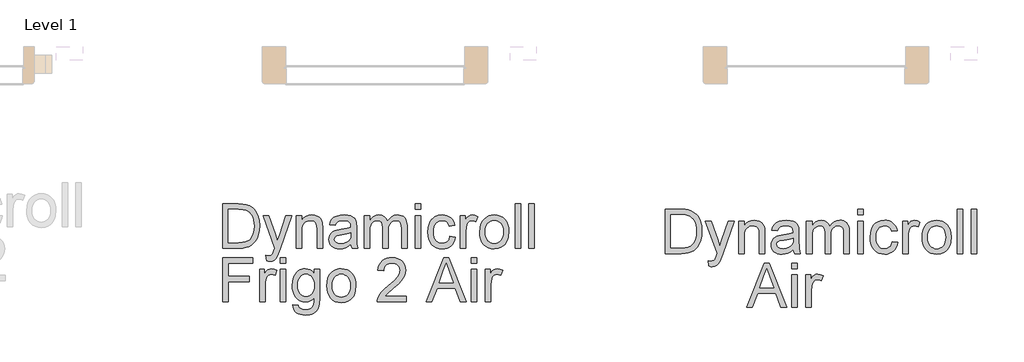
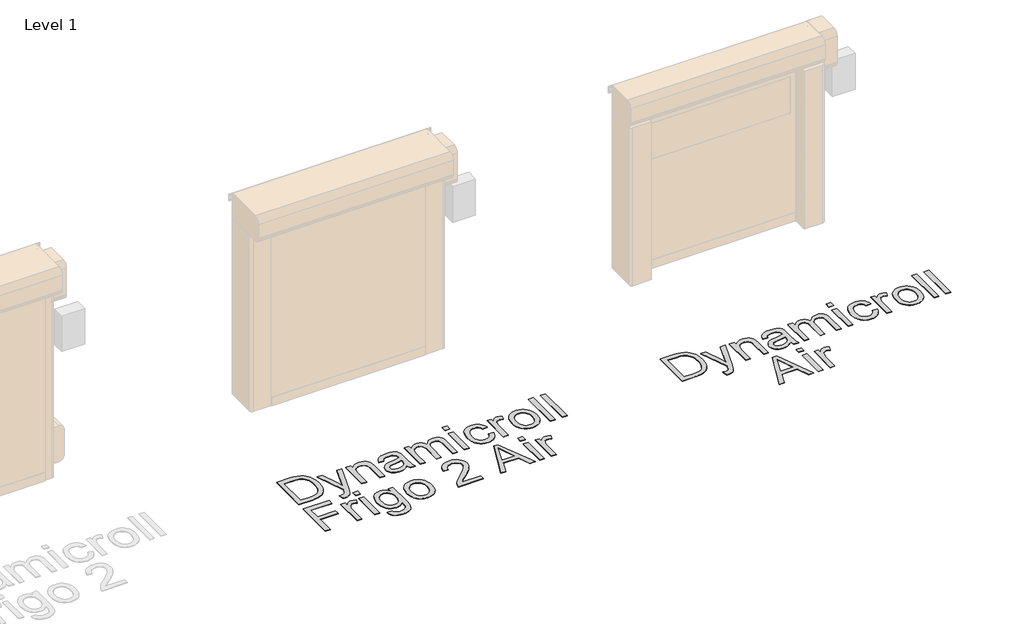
# One storey, part 5 of 17: 2 proxies.
"""IFC4 building model written with IfcOpenShell, lengths in millimetres."""

from ifc_helpers import new_model, si_unit, origin, origin_with_axes, place, context, project, spatial, polyline, outline, extrude, element, save

model = new_model("IFC4")

# Units and contexts
model_context = context("Model", 3, world=origin())
ifc_project = project(units=[si_unit("LENGTHUNIT", "METRE", prefix="MILLI")], contexts=[model_context])

# Site, building, storey
site = spatial("IfcSite", under=ifc_project)
building = spatial("IfcBuilding", under=site)
storey = spatial("IfcBuildingStorey", under=building, Name="Level 1", Elevation=0.0)

# Proxies
placement = place(None, origin())
element("IfcBuildingElementProxy", 1, Name="500mm", ObjectType="500mm", at=placement, inside=storey, context=model_context, shape_type="SweptSolid", body=[
    extrude(outline(polyline([(24771.8968294, 7368.7374399), (24771.8968294, 7871.0189907), (24945.1692491, 7871.0189907), (24996.94864, 7869.2102375), (25034.8098286, 7863.7839781), (25074.8476524, 7849.8351191), (25108.6314823, 7827.8541699), (25127.2478441, 7809.8892658), (25143.365674, 7789.5944424), (25156.9849721, 7766.9696997), (25168.1057382, 7742.0150377), (25182.9129885, 7686.0356608), (25187.8487386, 7622.5760166), (25184.5071438, 7568.6659759), (25174.4823595, 7521.2245269), (25159.2152567, 7480.8341495), (25140.1467066, 7448.0773235), (25118.1964142, 7422.218285), (25094.2840845, 7402.5212698), (25066.8308906, 7387.9132889), (25034.2580056, 7377.3213531), (24996.5041159, 7370.8834182), (24953.5079077, 7368.7374399), (24771.8968294, 7368.7374399)]), holes=[polyline([(24834.6820233, 7431.5226338), (24945.7823858, 7431.5226338), (24991.7369784, 7433.7912394), (25026.5937974, 7440.5970563), (25052.8973601, 7451.5415457), (25073.1921835, 7466.2261686), (25095.0045201, 7493.403451), (25111.3905973, 7528.5821668), (25121.6453079, 7571.9156002), (25125.0635448, 7623.5570352), (25123.3889153, 7660.0080096), (25118.3650268, 7691.9830863), (25109.9918793, 7719.4822655), (25098.2694728, 7742.505547), (25084.1481691, 7761.5740971), (25068.5783301, 7777.2090819), (25051.5599557, 7789.4105014), (25033.093046, 7798.1783556), (24996.9792968, 7805.7199365), (24944.0656032, 7808.2337968), (24834.6820233, 7808.2337968), (24834.6820233, 7431.5226338)])]), origin_with_axes(), (0.0, 0.0, 1.0), 5.0),
    extrude(outline(polyline([(25266.3302309, 7227.4707538), (25258.4820817, 7287.9260283), (25290.3651879, 7282.4077984), (25307.1344756, 7284.1399094), (25320.1636296, 7289.3362426), (25330.3110413, 7297.6289159), (25338.435102, 7308.6500474), (25355.6029284, 7354.8805514), (25360.5080217, 7370.0863406), (25227.0894848, 7737.6004537), (25293.3082439, 7737.6004537), (25364.0642143, 7532.8128098), (25388.712308, 7450.8977522), (25413.3604017, 7523.2478779), (25486.0784094, 7737.6004537), (25551.8066592, 7737.6004537), (25423.4158429, 7359.908272), (25390.0612086, 7277.9932144), (25372.9853527, 7251.8429359), (25353.6408911, 7233.7247477), (25331.1694326, 7223.1481403), (25304.7125858, 7219.6226045), (25286.5330838, 7221.5846418), (25266.3302309, 7227.4707538)])), origin_with_axes(), (0.0, 0.0, 1.0), 5.0),
    extrude(outline(polyline([(25603.8006478, 7368.7374399), (25603.8006478, 7737.6004537), (25666.5858417, 7737.6004537), (25666.5858417, 7686.0969744), (25688.3981783, 7712.0633119), (25714.594442, 7730.6106958), (25745.1746329, 7741.7391262), (25780.1387509, 7745.448603), (25811.0868237, 7742.4595618), (25839.4290657, 7733.4924381), (25863.0654839, 7719.6662065), (25879.8960852, 7702.0998412), (25891.3157555, 7680.8393276), (25898.7193806, 7655.9306508), (25902.0303186, 7595.2301216), (25902.0303186, 7368.7374399), (25839.2451247, 7368.7374399), (25839.2451247, 7586.7688357), (25837.4363716, 7619.2344218), (25832.0101122, 7642.319017), (25822.0006562, 7658.8583784), (25806.4423135, 7671.6882629), (25786.5000437, 7679.9196226), (25763.3388064, 7682.6634091), (25744.2740884, 7681.1229033), (25726.5659353, 7676.5013857), (25710.214347, 7668.7988564), (25695.2193236, 7658.0153155), (25682.6921753, 7642.9244894), (25673.7442122, 7622.3001051), (25668.3754343, 7596.1421624), (25666.5858417, 7564.4506613), (25666.5858417, 7368.7374399), (25603.8006478, 7368.7374399)])), origin_with_axes(), (0.0, 0.0, 1.0), 5.0),
    extrude(outline(polyline([(26223.804437, 7415.8263353), (26193.806726, 7390.1052525), (26162.9199668, 7373.2746512), (26130.4390523, 7363.9856308), (26095.6588754, 7360.8892907), (26067.7036759, 7362.7516933), (26043.1897058, 7368.3389011), (26022.1169653, 7377.6509141), (26004.4854542, 7390.6877323), (25990.56342, 7406.6216212), (25980.6191098, 7424.6248463), (25974.6525237, 7444.6974077), (25972.6636617, 7466.8393053), (25975.6680313, 7492.8669564), (25984.6811402, 7516.5033746), (25998.5840139, 7536.7368844), (26016.2576781, 7552.5558102), (26037.0276824, 7564.511975), (26060.2195765, 7573.1572019), (26114.5434845, 7582.5995064), (26178.7388926, 7592.5323203), (26223.436555, 7604.1819168), (26223.804437, 7618.1614326), (26219.4818236, 7646.1817779), (26206.5139833, 7664.514564), (26193.438844, 7672.4546838), (26177.5126193, 7678.1261979), (26137.1069135, 7682.6634091), (26099.7055773, 7679.6437111), (26073.5859557, 7670.584617), (26055.7743357, 7653.8306578), (26043.2970047, 7627.7263645), (25980.5118109, 7635.5745137), (25991.410315, 7669.9101666), (26007.6737649, 7696.8881796), (26030.8196737, 7717.5202282), (26062.3655548, 7732.8179878), (26100.9471791, 7742.2909492), (26145.2003174, 7745.448603), (26187.6447026, 7742.6588312), (26221.2905767, 7734.2895158), (26246.659106, 7721.7048859), (26264.2714565, 7706.2691705), (26275.9517099, 7687.185292), (26283.5239476, 7663.6561727), (26286.5896309, 7608.7191281), (26286.5896309, 7530.6055178), (26289.7779415, 7421.5285062), (26294.4990938, 7394.5658217), (26302.2859293, 7368.7374399), (26239.5007355, 7368.7374399), (26229.4452943, 7390.565105), (26223.804437, 7415.8263353)]), holes=[polyline([(26223.804437, 7541.396723), (26181.6206349, 7530.942743), (26122.514261, 7522.1442319), (26068.4969214, 7511.9661634), (26054.4407635, 7505.0070623), (26044.0327687, 7495.4114736), (26037.5948338, 7483.9151612), (26035.4488555, 7471.2538892), (26040.1240225, 7452.583878), (26054.1495236, 7437.2861183), (26077.2187904, 7427.077393), (26109.0252545, 7423.6744845), (26142.7477708, 7427.4299466), (26172.5462124, 7438.6963327), (26196.7037967, 7455.2970077), (26213.5037412, 7475.0553365), (26220.9533516, 7495.4114736), (26223.436555, 7523.6157599), (26223.804437, 7541.396723)])]), origin_with_axes(), (0.0, 0.0, 1.0), 5.0),
    extrude(outline(polyline([(26372.9192724, 7368.7374399), (26372.9192724, 7737.6004537), (26435.7044663, 7737.6004537), (26435.7044663, 7676.8999245), (26454.5890753, 7704.7823141), (26478.869287, 7726.6253076), (26507.7173668, 7740.7427791), (26540.3055802, 7745.448603), (26575.2237129, 7740.6508086), (26603.2134014, 7726.2574256), (26624.1213615, 7703.2188156), (26637.7943089, 7672.4853406), (26660.6796347, 7704.4067679), (26686.783928, 7727.2077874), (26716.1071887, 7740.8883991), (26748.6494168, 7745.448603), (26773.7841877, 7743.5517114), (26795.8456111, 7737.8610368), (26814.833687, 7728.3765791), (26830.7484154, 7715.0983384), (26843.3292132, 7697.8730304), (26852.3154974, 7676.547371), (26857.7072679, 7651.1213601), (26859.5045247, 7621.5949979), (26859.5045247, 7368.7374399), (26796.7193309, 7368.7374399), (26796.7193309, 7594.6169849), (26795.2631313, 7625.9329398), (26790.8945326, 7647.0401693), (26782.7091582, 7661.494866), (26769.8026315, 7672.8532226), (26753.2019565, 7680.2108625), (26733.934137, 7682.6634091), (26716.1416776, 7681.0922464), (26699.9203809, 7676.3787584), (26685.2702468, 7668.5229449), (26672.1912755, 7657.5248061), (26661.4345592, 7643.0624452), (26653.7511905, 7624.8139654), (26649.1411692, 7602.7793667), (26647.6044955, 7576.9586492), (26647.6044955, 7368.7374399), (26584.8193016, 7368.7374399), (26584.8193016, 7601.6067429), (26581.1864669, 7637.1073554), (26570.2879628, 7662.4298994), (26561.8611659, 7671.2820599), (26551.1121138, 7677.6050317), (26522.6472445, 7682.6634091), (26498.4590033, 7679.2911575), (26476.1714857, 7669.1744026), (26457.777386, 7652.5583992), (26445.2693981, 7629.6884018), (26438.0956992, 7597.9585797), (26435.7044663, 7554.7631021), (26435.7044663, 7368.7374399), (26372.9192724, 7368.7374399)])), origin_with_axes(), (0.0, 0.0, 1.0), 5.0),
    extrude(outline(polyline([(26953.6823155, 7808.2337968), (26953.6823155, 7871.0189907), (27016.4675093, 7871.0189907), (27016.4675093, 7808.2337968), (26953.6823155, 7808.2337968)])), origin_with_axes(), (0.0, 0.0, 1.0), 5.0),
    extrude(outline(polyline([(26953.6823155, 7368.7374399), (26953.6823155, 7737.6004537), (27016.4675093, 7737.6004537), (27016.4675093, 7368.7374399), (26953.6823155, 7368.7374399)])), origin_with_axes(), (0.0, 0.0, 1.0), 5.0),
    extrude(outline(polyline([(27346.089777, 7502.1559768), (27408.8749708, 7494.3078276), (27402.0461613, 7464.6818307), (27391.3699192, 7438.4664064), (27376.8462446, 7415.6615548), (27358.4751375, 7396.2672759), (27337.0306829, 7380.7894074), (27313.2869658, 7369.733787), (27287.2439862, 7363.1004148), (27258.9017441, 7360.8892907), (27223.6885394, 7363.9741345), (27192.1158336, 7373.2286659), (27164.1836267, 7388.652885), (27139.8919187, 7410.2467917), (27120.2293925, 7437.604183), (27106.1847309, 7470.3188558), (27097.7579339, 7508.3908102), (27094.9490016, 7551.8200462), (27099.746796, 7607.6921242), (27114.140179, 7656.1145918), (27124.9926979, 7677.064705), (27138.359077, 7695.2173822), (27154.2393165, 7710.5726234), (27172.6334163, 7723.1304286), (27213.6369303, 7739.8690594), (27258.0433528, 7745.448603), (27285.8989176, 7743.5325509), (27311.0950022, 7737.7843947), (27333.6316065, 7728.2041344), (27353.5087306, 7714.79177), (27370.3891492, 7697.8538698), (27383.9356372, 7677.6970022), (27394.1481947, 7654.3211671), (27401.0268216, 7627.7263645), (27338.2416278, 7619.8782153), (27326.8526143, 7647.2700955), (27309.1176365, 7666.905797), (27286.0177129, 7678.7240061), (27258.5338621, 7682.6634091), (27237.2005385, 7680.7243644), (27217.9595438, 7674.9072304), (27200.8108778, 7665.212007), (27185.7545408, 7651.6386942), (27173.4956397, 7633.8730595), (27164.7392818, 7611.6008704), (27159.485467, 7584.8221268), (27157.7341955, 7553.5368288), (27159.447146, 7521.780182), (27164.5859976, 7494.691038), (27173.1507503, 7472.2693968), (27185.1414041, 7454.5152585), (27199.8988371, 7441.0224199), (27216.7639273, 7431.384678), (27235.7366748, 7425.6020329), (27256.8170795, 7423.6744845), (27289.3286508, 7428.4876073), (27315.9847671, 7442.9269756), (27326.7644759, 7453.8484723), (27335.3752139, 7467.3604715), (27346.089777, 7502.1559768)])), origin_with_axes(), (0.0, 0.0, 1.0), 5.0),
    extrude(outline(polyline([(27463.8120154, 7368.7374399), (27463.8120154, 7737.6004537), (27518.7490601, 7737.6004537), (27518.7490601, 7683.0312911), (27539.0438835, 7714.6691427), (27557.7445516, 7733.3084971), (27576.5065333, 7742.4135765), (27596.9852977, 7745.448603), (27628.2552673, 7740.6048234), (27660.0157462, 7726.0734846), (27639.0464725, 7669.7875393), (27616.9735528, 7679.4444417), (27594.9006331, 7682.6634091), (27576.1539797, 7679.567069), (27559.4000205, 7670.2780486), (27545.8650288, 7655.5014552), (27536.7752778, 7635.9423957), (27529.1417264, 7600.8709789), (27526.5972093, 7562.6112514), (27526.5972093, 7368.7374399), (27463.8120154, 7368.7374399)])), origin_with_axes(), (0.0, 0.0, 1.0), 5.0),
    extrude(outline(polyline([(27683.5601939, 7553.1689468), (27686.9554381, 7600.9399567), (27697.1411709, 7642.1044192), (27714.1173921, 7676.6623341), (27737.8841019, 7704.6137015), (27761.81176, 7722.4789709), (27788.2226215, 7735.2398776), (27817.1166866, 7742.8964216), (27848.4939551, 7745.448603), (27883.1323442, 7742.3407665), (27914.4521311, 7733.0172572), (27942.4533159, 7717.478075), (27967.1358985, 7695.72322), (27987.2812699, 7668.488456), (28001.6708208, 7636.5095471), (28010.3045514, 7599.7864934), (28013.1824616, 7558.3192948), (28008.0934273, 7494.8903074), (28001.7321345, 7468.8549921), (27992.8263245, 7446.6057956), (27981.4871284, 7427.3877934), (27967.8256773, 7410.4460611), (27951.841971, 7395.7805987), (27933.5360096, 7383.3914061), (27892.8084071, 7366.5148195), (27848.4939551, 7360.8892907), (27813.3497282, 7363.9856308), (27781.7387014, 7373.2746512), (27753.6608745, 7388.7563518), (27729.1162476, 7410.4307327), (27709.1854741, 7437.9299118), (27694.9492073, 7470.8860072), (27686.4074473, 7509.2990189), (27683.5601939, 7553.1689468)]), holes=[polyline([(27746.3453877, 7553.2915742), (27748.1618051, 7522.8378427), (27753.6110571, 7496.4691343), (27762.6931439, 7474.1854489), (27775.4080654, 7455.9867864), (27790.8744376, 7441.8501543), (27808.2108766, 7431.75256), (27827.4173824, 7425.6940034), (27848.4939551, 7423.6744845), (27869.4632288, 7425.7054997), (27888.5930925, 7431.7985453), (27905.8835463, 7441.9536212), (27921.3345901, 7456.1707274), (27934.0495116, 7474.5494988), (27943.1315983, 7497.1895699), (27948.5808504, 7524.0909408), (27950.3972677, 7555.2536115), (27948.5693541, 7584.7416526), (27943.0856131, 7610.4205823), (27933.9460448, 7632.2904005), (27921.1506491, 7650.3511072), (27905.6421238, 7664.4877393), (27888.3631663, 7674.5853337), (27869.3137767, 7680.6438903), (27848.4939551, 7682.6634091), (27827.4173824, 7680.6515545), (27808.2108766, 7674.6159905), (27790.8744376, 7664.5567172), (27775.4080654, 7650.4737346), (27762.6931439, 7632.3287216), (27753.6110571, 7610.0833572), (27748.1618051, 7583.7376414), (27746.3453877, 7553.2915742)])]), origin_with_axes(), (0.0, 0.0, 1.0), 5.0),
    extrude(outline(polyline([(28083.8158047, 7368.7374399), (28083.8158047, 7871.0189907), (28146.6009985, 7871.0189907), (28146.6009985, 7368.7374399), (28083.8158047, 7368.7374399)])), origin_with_axes(), (0.0, 0.0, 1.0), 5.0),
    extrude(outline(polyline([(28240.7787893, 7368.7374399), (28240.7787893, 7871.0189907), (28303.5639831, 7871.0189907), (28303.5639831, 7368.7374399), (28240.7787893, 7368.7374399)])), origin_with_axes(), (0.0, 0.0, 1.0), 5.0),
    extrude(outline(polyline([(24771.8968294, 6758.8633507), (24771.8968294, 7261.1449014), (25109.3672463, 7261.1449014), (25109.3672463, 7198.3597076), (24834.6820233, 7198.3597076), (24834.6820233, 7049.2448722), (25070.1265002, 7049.2448722), (25070.1265002, 6986.4596784), (24834.6820233, 6986.4596784), (24834.6820233, 6758.8633507), (24771.8968294, 6758.8633507)])), origin_with_axes(), (0.0, 0.0, 1.0), 5.0),
    extrude(outline(polyline([(25187.8487386, 6758.8633507), (25187.8487386, 7127.7263645), (25242.7857832, 7127.7263645), (25242.7857832, 7073.1572019), (25263.0806066, 7104.7950535), (25281.7812747, 7123.4344079), (25300.5432565, 7132.5394873), (25321.0220209, 7135.5745137), (25352.2919905, 7130.7307341), (25384.0524694, 7116.1993953), (25363.0831957, 7059.9134501), (25341.0102759, 7069.5703524), (25318.9373562, 7072.7893199), (25300.1907029, 7069.6929798), (25283.4367437, 7060.4039594), (25269.901752, 7045.6273659), (25260.812001, 7026.0683065), (25253.1784496, 6990.9968896), (25250.6339325, 6952.7371621), (25250.6339325, 6758.8633507), (25187.8487386, 6758.8633507)])), origin_with_axes(), (0.0, 0.0, 1.0), 5.0),
    extrude(outline(polyline([(25423.2932155, 7198.3597076), (25423.2932155, 7261.1449014), (25486.0784094, 7261.1449014), (25486.0784094, 7198.3597076), (25423.2932155, 7198.3597076)])), origin_with_axes(), (0.0, 0.0, 1.0), 5.0),
    extrude(outline(polyline([(25423.2932155, 6758.8633507), (25423.2932155, 7127.7263645), (25486.0784094, 7127.7263645), (25486.0784094, 6758.8633507), (25423.2932155, 6758.8633507)])), origin_with_axes(), (0.0, 0.0, 1.0), 5.0),
    extrude(outline(polyline([(25564.5599017, 6727.4707538), (25627.3450955, 6719.6226045), (25634.2735398, 6700.0022315), (25647.7012326, 6686.513225), (25674.0967657, 6676.0285881), (25708.6470165, 6672.5337091), (25745.4965296, 6676.4884406), (25772.9037383, 6688.3526349), (25791.9109747, 6707.3598714), (25803.5605712, 6732.743729), (25806.9634797, 6759.7523988), (25807.8525278, 6805.9522461), (25786.9598962, 6785.3508543), (25763.6453747, 6770.6355745), (25737.9089635, 6761.8064066), (25709.7506624, 6758.8633507), (25675.3268712, 6762.2892518), (25645.0187597, 6772.566955), (25618.8263281, 6789.6964604), (25596.7495763, 6813.677768), (25579.2330283, 6842.4492057), (25566.7212084, 6873.9491015), (25559.2141164, 6908.1774555), (25556.7117525, 6945.1342676), (25561.2029785, 6995.8253408), (25574.6766565, 7042.4390553), (25596.6576058, 7081.9403845), (25610.6601142, 7097.8857698), (25626.6706452, 7111.2943021), (25644.4324478, 7121.9168947), (25663.688771, 7129.5044608), (25684.4396148, 7134.0570005), (25706.6849792, 7135.5745137), (25736.0465609, 7132.1409485), (25762.6950129, 7121.8402526), (25786.6303352, 7104.6724262), (25807.8525278, 7080.6374691), (25807.8525278, 7127.7263645), (25870.6377217, 7127.7263645), (25870.6377217, 6809.263184), (25866.3457651, 6735.7327702), (25860.9808193, 6708.3830432), (25853.4698952, 6687.3103026), (25831.2896766, 6655.1972701), (25799.0846736, 6630.5951617), (25779.3991548, 6621.4747539), (25757.5599934, 6614.9601769), (25707.4207431, 6609.7485153), (25676.6604434, 6611.5840932), (25649.004148, 6617.0908268), (25624.4518569, 6626.2687162), (25603.0035702, 6639.1177613), (25585.6786275, 6655.6532905), (25573.4963685, 6675.8906324), (25566.4567932, 6699.8297868), (25564.5599017, 6727.4707538)]), holes=[polyline([(25619.4969463, 6949.4262242), (25621.1715758, 6918.3823487), (25626.1954643, 6891.8373635), (25634.5686118, 6869.7912685), (25646.2910183, 6852.2440638), (25660.5426135, 6838.8585241), (25676.5033271, 6829.2974243), (25694.1731592, 6823.5607645), (25713.5521097, 6821.6485445), (25732.739455, 6823.5492682), (25750.3249808, 6829.2514391), (25766.3086871, 6838.7550573), (25780.6905738, 6852.0601228), (25792.5739287, 6869.4348829), (25801.0620393, 6891.1475848), (25806.1549057, 6917.1982286), (25807.8525278, 6947.5868142), (25806.1050883, 6976.7069734), (25800.8627699, 7002.0180211), (25792.1255725, 7023.5199573), (25779.8934962, 7041.212782), (25765.201209, 7055.0275173), (25749.0833791, 7064.8951854), (25731.5400065, 7070.8157863), (25712.5710911, 7072.7893199), (25693.9202403, 7070.8464431), (25676.717925, 7065.0178128), (25660.9641449, 7055.3034288), (25646.6589003, 7041.7032913), (25634.7755454, 7024.2787139), (25626.2874348, 7003.0910102), (25621.1945684, 6978.1401803), (25619.4969463, 6949.4262242)])]), origin_with_axes(), (0.0, 0.0, 1.0), 5.0),
    extrude(outline(polyline([(25949.119214, 6943.2948576), (25952.5144582, 6991.0658675), (25962.700191, 7032.2303299), (25979.6764122, 7066.7882449), (26003.4431219, 7094.7396123), (26027.37078, 7112.6048817), (26053.7816416, 7125.3657884), (26082.6757066, 7133.0223324), (26114.0529751, 7135.5745137), (26148.6913643, 7132.4666773), (26180.0111512, 7123.143168), (26208.012336, 7107.6039858), (26232.6949186, 7085.8491307), (26252.8402899, 7058.6143668), (26267.2298409, 7026.6354579), (26275.8635715, 6989.9124042), (26278.7414817, 6948.4452055), (26273.6524474, 6885.0162182), (26267.2911546, 6858.9809028), (26258.3853446, 6836.7317063), (26247.0461485, 6817.5137042), (26233.3846973, 6800.5719719), (26217.4009911, 6785.9065094), (26199.0950297, 6773.5173168), (26158.3674271, 6756.6407303), (26114.0529751, 6751.0152015), (26078.9087483, 6754.1115416), (26047.2977214, 6763.400562), (26019.2198946, 6778.8822626), (25994.6752677, 6800.5566435), (25974.7444942, 6828.0558226), (25960.5082274, 6861.011918), (25951.9664673, 6899.4249297), (25949.119214, 6943.2948576)]), holes=[polyline([(26011.9044078, 6943.4174849), (26013.7208252, 6912.9637535), (26019.1700772, 6886.5950451), (26028.252164, 6864.3113597), (26040.9670854, 6846.1126972), (26056.4334577, 6831.9760651), (26073.7698967, 6821.8784708), (26092.9764025, 6815.8199142), (26114.0529751, 6813.8003953), (26135.0222489, 6815.8314105), (26154.1521126, 6821.924456), (26171.4425664, 6832.0795319), (26186.8936102, 6846.2966382), (26199.6085316, 6864.6754095), (26208.6906184, 6887.3154807), (26214.1398705, 6914.2168516), (26215.9562878, 6945.3795222), (26214.1283741, 6974.8675634), (26208.6446332, 7000.5464931), (26199.5050648, 7022.4163113), (26186.7096692, 7040.477018), (26171.2011438, 7054.6136501), (26153.9221864, 7064.7112444), (26134.8727968, 7070.769801), (26114.0529751, 7072.7893199), (26092.9764025, 7070.7774652), (26073.7698967, 7064.7419013), (26056.4334577, 7054.682628), (26040.9670854, 7040.5996453), (26028.252164, 7022.4546323), (26019.1700772, 7000.2092679), (26013.7208252, 6973.8635521), (26011.9044078, 6943.4174849)])]), origin_with_axes(), (0.0, 0.0, 1.0), 5.0),
    extrude(outline(polyline([(26851.6563755, 6821.6485445), (26851.6563755, 6758.8633507), (26522.0341078, 6758.8633507), (26523.4136653, 6780.9669272), (26528.778611, 6802.1507988), (26544.2603117, 6835.9806139), (26566.9157112, 6868.7987536), (26599.6878656, 6903.1497349), (26645.5198308, 6941.578075), (26713.2714316, 7001.757438), (26753.9223921, 7046.1791889), (26774.2478723, 7082.2316244), (26779.3292424, 7099.8899602), (26781.0230324, 7117.3030413), (26779.425045, 7133.6852864), (26774.6310827, 7148.7416235), (26766.6411457, 7162.4720525), (26755.4552337, 7174.8765736), (26741.6941479, 7185.1504447), (26725.9786889, 7192.4889241), (26708.3088568, 7196.8920117), (26688.6846516, 7198.3597076), (26649.5205475, 7192.6268798), (26633.2149445, 7185.4608451), (26619.0936409, 7175.4283966), (26607.6701385, 7162.8667593), (26599.4579394, 7148.1131584), (26594.4570435, 7131.167594), (26592.6674509, 7112.0300661), (26529.882257, 7119.8782153), (26535.2816917, 7152.2901519), (26545.1033746, 7180.6094013), (26559.3473056, 7204.8359635), (26578.0134847, 7224.9698386), (26600.6727164, 7240.7964286), (26626.8958048, 7252.1011357), (26656.6827501, 7258.88396), (26690.0335523, 7261.1449014), (26723.6832585, 7258.6310411), (26753.6311522, 7251.0894602), (26779.8772333, 7238.5201587), (26802.4215018, 7220.9231366), (26820.5281937, 7199.6013093), (26833.4615451, 7175.8575922), (26841.221556, 7149.6919853), (26843.8082262, 7121.1044886), (26841.0184544, 7091.0761207), (26832.6491391, 7061.568919), (26817.7959035, 7031.5558796), (26795.5543712, 7000.0099985), (26760.0997439, 6962.3480793), (26705.6072234, 6913.9869253), (26633.379725, 6853.5929644), (26605.0528114, 6821.6485445), (26851.6563755, 6821.6485445)])), origin_with_axes(), (0.0, 0.0, 1.0), 5.0),
    extrude(outline(polyline([(27075.6965105, 6758.8633507), (27276.1921979, 7261.1449014), (27329.6577145, 7261.1449014), (27530.1534019, 6758.8633507), (27463.8120154, 6758.8633507), (27406.2997969, 6915.8263353), (27199.4274882, 6915.8263353), (27142.037897, 6758.8633507), (27075.6965105, 6758.8633507)]), holes=[polyline([(27222.4814266, 6978.6115291), (27383.3684858, 6978.6115291), (27338.1190004, 7102.0972522), (27302.9249562, 7198.3597076), (27271.6549866, 7112.8884574), (27222.4814266, 6978.6115291)])]), origin_with_axes(), (0.0, 0.0, 1.0), 5.0),
    extrude(outline(polyline([(27589.3824031, 7198.3597076), (27589.3824031, 7261.1449014), (27652.167597, 7261.1449014), (27652.167597, 7198.3597076), (27589.3824031, 7198.3597076)])), origin_with_axes(), (0.0, 0.0, 1.0), 5.0),
    extrude(outline(polyline([(27589.3824031, 6758.8633507), (27589.3824031, 7127.7263645), (27652.167597, 7127.7263645), (27652.167597, 6758.8633507), (27589.3824031, 6758.8633507)])), origin_with_axes(), (0.0, 0.0, 1.0), 5.0),
    extrude(outline(polyline([(27746.3453877, 6758.8633507), (27746.3453877, 7127.7263645), (27801.2824324, 7127.7263645), (27801.2824324, 7073.1572019), (27821.5772558, 7104.7950535), (27840.2779238, 7123.4344079), (27859.0399056, 7132.5394873), (27879.51867, 7135.5745137), (27910.7886396, 7130.7307341), (27942.5491185, 7116.1993953), (27921.5798448, 7059.9134501), (27899.5069251, 7069.5703524), (27877.4340054, 7072.7893199), (27858.687352, 7069.6929798), (27841.9333928, 7060.4039594), (27828.3984011, 7045.6273659), (27819.3086501, 7026.0683065), (27811.6750987, 6990.9968896), (27809.1305816, 6952.7371621), (27809.1305816, 6758.8633507), (27746.3453877, 6758.8633507)])), origin_with_axes(), (0.0, 0.0, 1.0), 5.0),
])
element("IfcBuildingElementProxy", 2, Name="500mm", ObjectType="500mm", at=placement, inside=storey, context=model_context, shape_type="SweptSolid", body=[
    extrude(outline(polyline([(29787.548359, 7308.3079034), (29787.548359, 7810.5894542), (29960.8207787, 7810.5894542), (30012.6001695, 7808.780701), (30050.4613582, 7803.3544416), (30090.499182, 7789.4055826), (30124.2830119, 7767.4246334), (30142.8993737, 7749.4597293), (30159.0172036, 7729.1649059), (30172.6365016, 7706.5401632), (30183.7572678, 7681.5855012), (30198.5645181, 7625.6061242), (30203.5002682, 7562.1464801), (30200.1586734, 7508.2364394), (30190.133889, 7460.7949904), (30174.8667862, 7420.404613), (30155.7982362, 7387.647787), (30133.8479438, 7361.7887485), (30109.9356141, 7342.0917333), (30082.4824202, 7327.4837524), (30049.9095352, 7316.8918166), (30012.1556455, 7310.4538817), (29969.1594373, 7308.3079034), (29787.548359, 7308.3079034)]), holes=[polyline([(29850.3335528, 7371.0930973), (29961.4339154, 7371.0930973), (30007.3885079, 7373.3617029), (30042.245327, 7380.1675198), (30068.5488896, 7391.1120092), (30088.843713, 7405.7966321), (30110.6560497, 7432.9739145), (30127.0421269, 7468.1526303), (30137.2968375, 7511.4860637), (30140.7150744, 7563.1274987), (30139.0404449, 7599.5784731), (30134.0165564, 7631.5535498), (30125.6434089, 7659.052729), (30113.9210024, 7682.0760105), (30099.7996987, 7701.1445606), (30084.2298597, 7716.7795454), (30067.2114853, 7728.9809649), (30048.7445756, 7737.7488191), (30012.6308264, 7745.2904), (29959.7171327, 7747.8042603), (29850.3335528, 7747.8042603), (29850.3335528, 7371.0930973)])]), origin_with_axes(), (0.0, 0.0, 1.0), 5.0),
    extrude(outline(polyline([(30281.9817605, 7167.0412173), (30274.1336113, 7227.4964918), (30306.0167175, 7221.9782619), (30322.7860051, 7223.7103729), (30335.8151591, 7228.9067061), (30345.9625708, 7237.1993794), (30354.0866316, 7248.2205109), (30371.254458, 7294.4510149), (30376.1595513, 7309.6568041), (30242.7410144, 7677.1709172), (30308.9597735, 7677.1709172), (30379.7157439, 7472.3832733), (30404.3638376, 7390.4682157), (30429.0119312, 7462.8183414), (30501.729939, 7677.1709172), (30567.4581888, 7677.1709172), (30439.0673724, 7299.4787355), (30405.7127382, 7217.5636779), (30388.6368823, 7191.4133994), (30369.2924207, 7173.2952112), (30346.8209622, 7162.7186038), (30320.3641153, 7159.193068), (30302.1846134, 7161.1551053), (30281.9817605, 7167.0412173)])), origin_with_axes(), (0.0, 0.0, 1.0), 5.0),
    extrude(outline(polyline([(30619.4521774, 7308.3079034), (30619.4521774, 7677.1709172), (30682.2373713, 7677.1709172), (30682.2373713, 7625.6674379), (30704.0497079, 7651.6337754), (30730.2459716, 7670.1811593), (30760.8261625, 7681.3095897), (30795.7902804, 7685.0190665), (30826.7383533, 7682.0300253), (30855.0805953, 7673.0629016), (30878.7170135, 7659.23667), (30895.5476148, 7641.6703047), (30906.9672851, 7620.4097911), (30914.3709102, 7595.5011143), (30917.6818482, 7534.8005851), (30917.6818482, 7308.3079034), (30854.8966543, 7308.3079034), (30854.8966543, 7526.3392992), (30853.0879012, 7558.8048853), (30847.6616418, 7581.8894805), (30837.6521858, 7598.4288419), (30822.0938431, 7611.2587264), (30802.1515733, 7619.4900861), (30778.990336, 7622.2338726), (30759.925618, 7620.6933668), (30742.2174649, 7616.0718492), (30725.8658766, 7608.3693199), (30710.8708532, 7597.585779), (30698.3437049, 7582.4949529), (30689.3957417, 7561.8705686), (30684.0269639, 7535.7126259), (30682.2373713, 7504.0211248), (30682.2373713, 7308.3079034), (30619.4521774, 7308.3079034)])), origin_with_axes(), (0.0, 0.0, 1.0), 5.0),
    extrude(outline(polyline([(31239.4559666, 7355.3967988), (31209.4582556, 7329.675716), (31178.5714964, 7312.8451147), (31146.0905819, 7303.5560943), (31111.310405, 7300.4597542), (31083.3552054, 7302.3221568), (31058.8412354, 7307.9093646), (31037.7684949, 7317.2213776), (31020.1369838, 7330.2581958), (31006.2149496, 7346.1920847), (30996.2706394, 7364.1953098), (30990.3040533, 7384.2678712), (30988.3151912, 7406.4097688), (30991.3195609, 7432.4374199), (31000.3326698, 7456.0738381), (31014.2355435, 7476.3073479), (31031.9092077, 7492.1262737), (31052.679212, 7504.0824385), (31075.8711061, 7512.7276654), (31130.195014, 7522.1699699), (31194.3904222, 7532.1027838), (31239.0880846, 7543.7523803), (31239.4559666, 7557.7318961), (31235.1333532, 7585.7522414), (31222.1655128, 7604.0850275), (31209.0903736, 7612.0251473), (31193.1641489, 7617.6966614), (31152.7584431, 7622.2338726), (31115.3571069, 7619.2141746), (31089.2374853, 7610.1550805), (31071.4258653, 7593.4011213), (31058.9485343, 7567.296828), (30996.1633405, 7575.1449772), (31007.0618446, 7609.4806301), (31023.3252945, 7636.4586431), (31046.4712033, 7657.0906917), (31078.0170844, 7672.3884513), (31116.5987086, 7681.8614127), (31160.851847, 7685.0190665), (31203.2962322, 7682.2292947), (31236.9421063, 7673.8599793), (31262.3106356, 7661.2753494), (31279.9229861, 7645.839634), (31291.6032394, 7626.7557555), (31299.1754772, 7603.2266362), (31302.2411605, 7548.2895916), (31302.2411605, 7470.1759813), (31305.4294711, 7361.0989697), (31310.1506234, 7334.1362852), (31317.9374589, 7308.3079034), (31255.1522651, 7308.3079034), (31245.0968239, 7330.1355685), (31239.4559666, 7355.3967988)]), holes=[polyline([(31239.4559666, 7480.9671865), (31197.2721645, 7470.5132064), (31138.1657906, 7461.7146954), (31084.148451, 7451.5366269), (31070.0922931, 7444.5775258), (31059.6842983, 7434.9819371), (31053.2463634, 7423.4856247), (31051.1003851, 7410.8243527), (31055.7755521, 7392.1543415), (31069.8010532, 7376.8565818), (31092.87032, 7366.6478565), (31124.6767841, 7363.244948), (31158.3993003, 7367.0004101), (31188.197742, 7378.2667962), (31212.3553263, 7394.8674712), (31229.1552708, 7414.6258), (31236.6048812, 7434.9819371), (31239.0880846, 7463.1862234), (31239.4559666, 7480.9671865)])]), origin_with_axes(), (0.0, 0.0, 1.0), 5.0),
    extrude(outline(polyline([(31388.570802, 7308.3079034), (31388.570802, 7677.1709172), (31451.3559958, 7677.1709172), (31451.3559958, 7616.470388), (31470.2406049, 7644.3527776), (31494.5208166, 7666.1957711), (31523.3688964, 7680.3132426), (31555.9571098, 7685.0190665), (31590.8752425, 7680.2212721), (31618.864931, 7665.8278891), (31639.772891, 7642.7892791), (31653.4458385, 7612.0558041), (31676.3311643, 7643.9772314), (31702.4354575, 7666.7782509), (31731.7587182, 7680.4588626), (31764.3009464, 7685.0190665), (31789.4357173, 7683.1221749), (31811.4971407, 7677.4315003), (31830.4852166, 7667.9470426), (31846.399945, 7654.6688019), (31858.9807428, 7637.4434939), (31867.967027, 7616.1178345), (31873.3587975, 7590.6918236), (31875.1560543, 7561.1654614), (31875.1560543, 7308.3079034), (31812.3708604, 7308.3079034), (31812.3708604, 7534.1874484), (31810.9146609, 7565.5034033), (31806.5460622, 7586.6106328), (31798.3606878, 7601.0653295), (31785.4541611, 7612.4236861), (31768.8534861, 7619.781326), (31749.5856666, 7622.2338726), (31731.7932072, 7620.6627099), (31715.5719105, 7615.9492219), (31700.9217764, 7608.0934084), (31687.8428051, 7597.0952696), (31677.0860888, 7582.6329087), (31669.4027201, 7564.3844289), (31664.7926988, 7542.3498302), (31663.2560251, 7516.5291127), (31663.2560251, 7308.3079034), (31600.4708312, 7308.3079034), (31600.4708312, 7541.1772064), (31596.8379965, 7576.6778189), (31585.9394924, 7602.0003629), (31577.5126955, 7610.8525234), (31566.7636434, 7617.1754952), (31538.298774, 7622.2338726), (31514.1105328, 7618.861621), (31491.8230153, 7608.7448661), (31473.4289155, 7592.1288627), (31460.9209277, 7569.2588653), (31453.7472288, 7537.5290432), (31451.3559958, 7494.3335656), (31451.3559958, 7308.3079034), (31388.570802, 7308.3079034)])), origin_with_axes(), (0.0, 0.0, 1.0), 5.0),
    extrude(outline(polyline([(31969.333845, 7747.8042603), (31969.333845, 7810.5894542), (32032.1190389, 7810.5894542), (32032.1190389, 7747.8042603), (31969.333845, 7747.8042603)])), origin_with_axes(), (0.0, 0.0, 1.0), 5.0),
    extrude(outline(polyline([(31969.333845, 7308.3079034), (31969.333845, 7677.1709172), (32032.1190389, 7677.1709172), (32032.1190389, 7308.3079034), (31969.333845, 7308.3079034)])), origin_with_axes(), (0.0, 0.0, 1.0), 5.0),
    extrude(outline(polyline([(32361.7413066, 7441.7264403), (32424.5265004, 7433.8782911), (32417.6976909, 7404.2522942), (32407.0214488, 7378.0368699), (32392.4977742, 7355.2320183), (32374.1266671, 7335.8377394), (32352.6822124, 7320.3598709), (32328.9384953, 7309.3042505), (32302.8955158, 7302.6708783), (32274.5532737, 7300.4597542), (32239.340069, 7303.544598), (32207.7673632, 7312.7991294), (32179.8351563, 7328.2233485), (32155.5434483, 7349.8172552), (32135.8809221, 7377.1746465), (32121.8362605, 7409.8893193), (32113.4094635, 7447.9612737), (32110.6005312, 7491.3905097), (32115.3983255, 7547.2625877), (32129.7917086, 7595.6850553), (32140.6442275, 7616.6351685), (32154.0106066, 7634.7878457), (32169.8908461, 7650.1430869), (32188.2849458, 7662.7008921), (32229.2884599, 7679.4395229), (32273.6948824, 7685.0190665), (32301.5504472, 7683.1030144), (32326.7465318, 7677.3548582), (32349.2831361, 7667.7745979), (32369.1602601, 7654.3622335), (32386.0406788, 7637.4243333), (32399.5871668, 7617.2674657), (32409.7997243, 7593.8916306), (32416.6783512, 7567.296828), (32353.8931573, 7559.4486788), (32342.5041439, 7586.840559), (32324.7691661, 7606.4762605), (32301.6692424, 7618.2944696), (32274.1853917, 7622.2338726), (32252.8520681, 7620.2948279), (32233.6110733, 7614.4776939), (32216.4624074, 7604.7824705), (32201.4060703, 7591.2091577), (32189.1471693, 7573.443523), (32180.3908114, 7551.1713339), (32175.1369966, 7524.3925903), (32173.385725, 7493.1072923), (32175.0986756, 7461.3506455), (32180.2375272, 7434.2615015), (32188.8022799, 7411.8398603), (32200.7929337, 7394.085722), (32215.5503666, 7380.5928834), (32232.4154568, 7370.9551415), (32251.3882043, 7365.1724964), (32272.4686091, 7363.244948), (32304.9801804, 7368.0580708), (32331.6362966, 7382.4974391), (32342.4160055, 7393.4189358), (32351.0267435, 7406.9309349), (32361.7413066, 7441.7264403)])), origin_with_axes(), (0.0, 0.0, 1.0), 5.0),
    extrude(outline(polyline([(32479.463545, 7308.3079034), (32479.463545, 7677.1709172), (32534.4005896, 7677.1709172), (32534.4005896, 7622.6017546), (32554.695413, 7654.2396062), (32573.3960811, 7672.8789606), (32592.1580629, 7681.98404), (32612.6368273, 7685.0190665), (32643.9067969, 7680.1752869), (32675.6672758, 7665.6439481), (32654.6980021, 7609.3580028), (32632.6250824, 7619.0149052), (32610.5521626, 7622.2338726), (32591.8055093, 7619.1375325), (32575.0515501, 7609.8485121), (32561.5165584, 7595.0719186), (32552.4268074, 7575.5128592), (32544.793256, 7540.4414424), (32542.2487389, 7502.1817149), (32542.2487389, 7308.3079034), (32479.463545, 7308.3079034)])), origin_with_axes(), (0.0, 0.0, 1.0), 5.0),
    extrude(outline(polyline([(32699.2117235, 7492.7394103), (32702.6069677, 7540.5104202), (32712.7927005, 7581.6748827), (32729.7689217, 7616.2327976), (32753.5356314, 7644.184165), (32777.4632895, 7662.0494344), (32803.8741511, 7674.8103411), (32832.7682161, 7682.4668851), (32864.1454846, 7685.0190665), (32898.7838738, 7681.91123), (32930.1036607, 7672.5877207), (32958.1048455, 7657.0485385), (32982.7874281, 7635.2936835), (33002.9327994, 7608.0589195), (33017.3223504, 7576.0800106), (33025.956081, 7539.3569569), (33028.8339912, 7497.8897583), (33023.7449569, 7434.4607709), (33017.3836641, 7408.4254556), (33008.4778541, 7386.1762591), (32997.138658, 7366.9582569), (32983.4772068, 7350.0165246), (32967.4935006, 7335.3510622), (32949.1875392, 7322.9618696), (32908.4599367, 7306.085283), (32864.1454846, 7300.4597542), (32829.0012578, 7303.5560943), (32797.3902309, 7312.8451147), (32769.3124041, 7328.3268153), (32744.7677772, 7350.0011962), (32724.8370037, 7377.5003753), (32710.6007369, 7410.4564707), (32702.0589768, 7448.8694824), (32699.2117235, 7492.7394103)]), holes=[polyline([(32761.9969173, 7492.8620377), (32763.8133347, 7462.4083062), (32769.2625867, 7436.0395978), (32778.3446735, 7413.7559124), (32791.0595949, 7395.5572499), (32806.5259672, 7381.4206178), (32823.8624062, 7371.3230235), (32843.068912, 7365.2644669), (32864.1454846, 7363.244948), (32885.1147584, 7365.2759632), (32904.2446221, 7371.3690087), (32921.5350759, 7381.5240847), (32936.9861197, 7395.7411909), (32949.7010412, 7414.1199623), (32958.7831279, 7436.7600334), (32964.23238, 7463.6614043), (32966.0487973, 7494.824075), (32964.2208836, 7524.3121161), (32958.7371427, 7549.9910458), (32949.5975743, 7571.860864), (32936.8021787, 7589.9215707), (32921.2936533, 7604.0582028), (32904.0146959, 7614.1557971), (32884.9653063, 7620.2143538), (32864.1454846, 7622.2338726), (32843.068912, 7620.222018), (32823.8624062, 7614.186454), (32806.5259672, 7604.1271807), (32791.0595949, 7590.044198), (32778.3446735, 7571.8991851), (32769.2625867, 7549.6538207), (32763.8133347, 7523.3081049), (32761.9969173, 7492.8620377)])]), origin_with_axes(), (0.0, 0.0, 1.0), 5.0),
    extrude(outline(polyline([(33099.4673342, 7308.3079034), (33099.4673342, 7810.5894542), (33162.2525281, 7810.5894542), (33162.2525281, 7308.3079034), (33099.4673342, 7308.3079034)])), origin_with_axes(), (0.0, 0.0, 1.0), 5.0),
    extrude(outline(polyline([(33256.4303188, 7308.3079034), (33256.4303188, 7810.5894542), (33319.2155127, 7810.5894542), (33319.2155127, 7308.3079034), (33256.4303188, 7308.3079034)])), origin_with_axes(), (0.0, 0.0, 1.0), 5.0),
    extrude(outline(polyline([(30710.0737756, 6698.4338142), (30910.5694629, 7200.7153649), (30964.0349796, 7200.7153649), (31164.5306669, 6698.4338142), (31098.1892805, 6698.4338142), (31040.6770619, 6855.3967988), (30833.8047533, 6855.3967988), (30776.415162, 6698.4338142), (30710.0737756, 6698.4338142)]), holes=[polyline([(30856.8586916, 6918.1819926), (31017.7457509, 6918.1819926), (30972.4962655, 7041.6677157), (30937.3022212, 7137.9301711), (30906.0322517, 7052.4589209), (30856.8586916, 6918.1819926)])]), origin_with_axes(), (0.0, 0.0, 1.0), 5.0),
    extrude(outline(polyline([(31223.7596682, 7137.9301711), (31223.7596682, 7200.7153649), (31286.544862, 7200.7153649), (31286.544862, 7137.9301711), (31223.7596682, 7137.9301711)])), origin_with_axes(), (0.0, 0.0, 1.0), 5.0),
    extrude(outline(polyline([(31223.7596682, 6698.4338142), (31223.7596682, 7067.296828), (31286.544862, 7067.296828), (31286.544862, 6698.4338142), (31223.7596682, 6698.4338142)])), origin_with_axes(), (0.0, 0.0, 1.0), 5.0),
    extrude(outline(polyline([(31380.7226528, 6698.4338142), (31380.7226528, 7067.296828), (31435.6596974, 7067.296828), (31435.6596974, 7012.7276654), (31455.9545208, 7044.365517), (31474.6551889, 7063.0048714), (31493.4171706, 7072.1099508), (31513.895935, 7075.1449772), (31545.1659046, 7070.3011976), (31576.9263835, 7055.7698588), (31555.9571098, 6999.4839136), (31533.8841901, 7009.1408159), (31511.8112704, 7012.3597834), (31493.064617, 7009.2634433), (31476.3106578, 6999.9744229), (31462.7756661, 6985.1978294), (31453.6859151, 6965.63877), (31446.0523637, 6930.5673531), (31443.5078466, 6892.3076256), (31443.5078466, 6698.4338142), (31380.7226528, 6698.4338142)])), origin_with_axes(), (0.0, 0.0, 1.0), 5.0),
])

save(model, "model.ifc")
